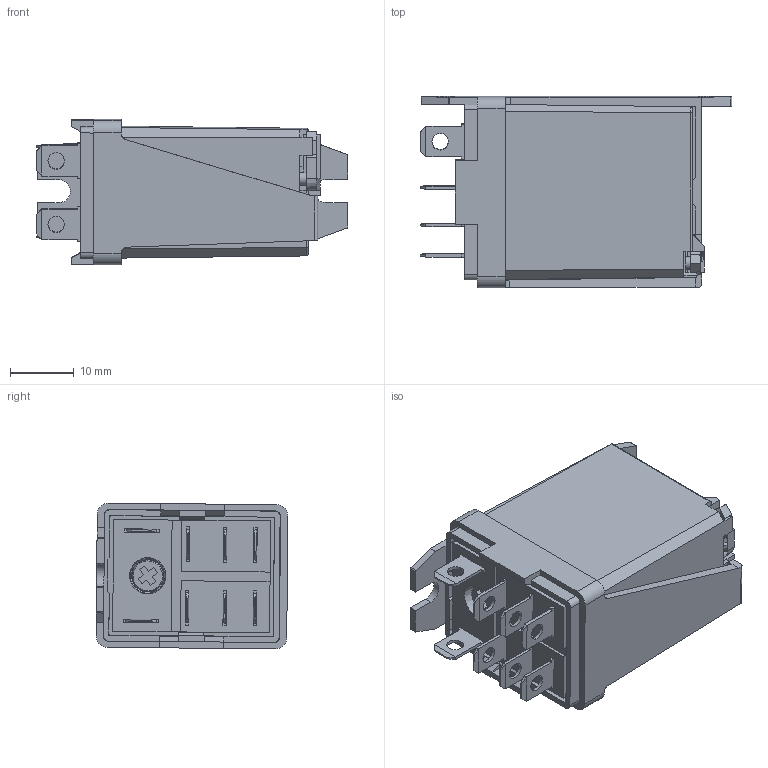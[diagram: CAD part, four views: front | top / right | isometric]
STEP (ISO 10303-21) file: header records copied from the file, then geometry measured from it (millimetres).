
FILE_DESCRIPTION(/* description */ ('Unknown'),/* implementation_level */ '2;1');
FILE_NAME(/* name */ '05626_with_5632',/* time_stamp */ '2015-12-09T11:31:11+01:00',/* author */ ('Unknown'),/* organization */ ('Unknown'),/* preprocessor_version */ 'ST-DEVELOPER v16',/* originating_system */ 'DEX',/* authorisation */ $);
FILE_SCHEMA (('AUTOMOTIVE_DESIGN {1 0 10303 214 3 1 1}'));
Length unit declared in the file: millimetre
Products named in the file (1): 05627_with_5632
Bounding box: 49.05 x 30.17 x 22.93 mm (x, y, z)
Volume: 2254.2 mm3; surface area: 12095.2 mm2
Topology: 1 solids, 6 shells, 368 faces, 1168 edges, 808 vertices
Faces by surface type: plane 309, cylinder 49, cone 8, bspline 2
Full cylindrical faces by diameter (mm): 2 x1, 2.6 x8, 5 x1
Entity records: 14401 total; most frequent: CARTESIAN_POINT 2664, ORIENTED_EDGE 2119, DIRECTION 1989, EDGE_CURVE 1142, LINE 1001, VECTOR 1001, VERTEX_POINT 796, AXIS2_PLACEMENT_3D 494
